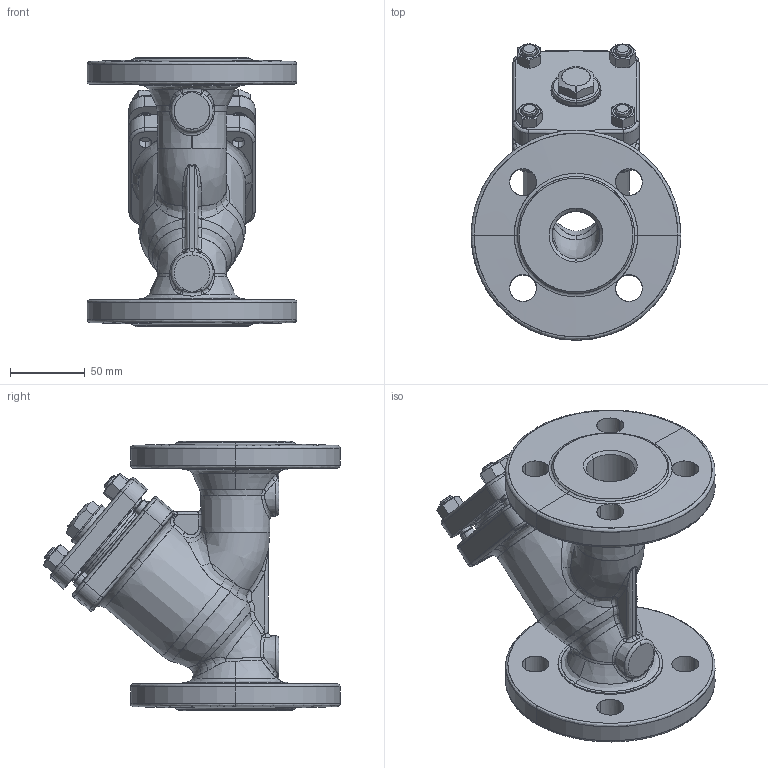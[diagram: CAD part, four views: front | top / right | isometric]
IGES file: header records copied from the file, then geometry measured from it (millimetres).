
Start section: SolidWorks IGES file using analytic representation for surfaces
Global section: file name: D:\Archiwum SolidWorks\staliwo\821\PN40\CAD\821_DN32 PN40.IGS; native system: SolidWorks 2010; preprocessor: SolidWorks 2010; author: wtarnaws; date: 100113.074658; units: millimetre
Bounding box: 140 x 197.97 x 180 mm (x, y, z)
Surface area: 183000.1 mm2 (no closed solid volume)
Topology: 0 solids, 0 shells, 564 faces, 8796 edges, 8796 vertices
Faces by surface type: bspline 301, revolution 263
